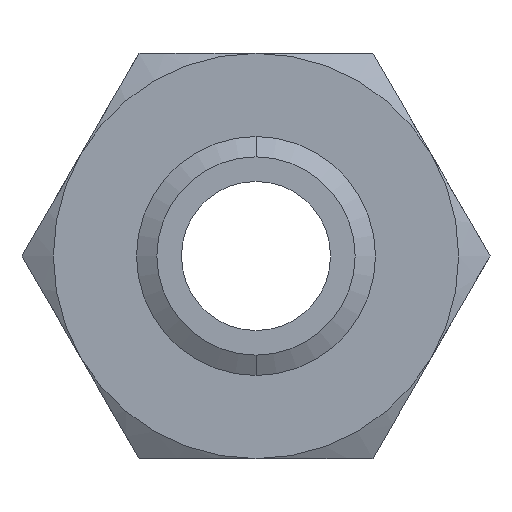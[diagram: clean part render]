
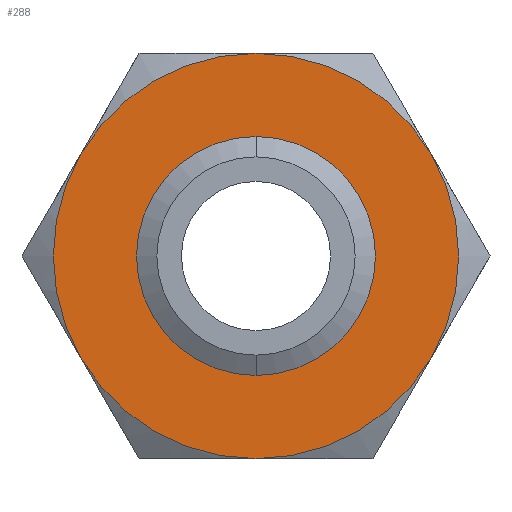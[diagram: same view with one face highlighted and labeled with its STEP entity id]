
A CAD part, front view. The second image highlights one B-rep face of the part: STEP entity #288.
In plain terms, the highlighted planar face has unit normal (0, -1, 0).
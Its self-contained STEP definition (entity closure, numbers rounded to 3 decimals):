
#82 = DIRECTION ( 'NONE',  ( 0., 0., 1. ) ) ;
#83 = DIRECTION ( 'NONE',  ( 0., 1., 0. ) ) ;
#84 = CARTESIAN_POINT ( 'NONE',  ( 0., 0., 0. ) ) ;
#85 = AXIS2_PLACEMENT_3D ( 'NONE', #84, #83, #82 ) ;
#87 = CIRCLE ( 'NONE', #85, 47.5 ) ;
#192 = EDGE_LOOP ( 'NONE', ( #215, #219 ) ) ;
#195 = EDGE_CURVE ( 'NONE', #274, #268, #907, .T. ) ;
#196 = ORIENTED_EDGE ( 'NONE', *, *, #195, .F. ) ;
#214 = VERTEX_POINT ( 'NONE', #945 ) ;
#215 = ORIENTED_EDGE ( 'NONE', *, *, #377, .F. ) ;
#216 = ORIENTED_EDGE ( 'NONE', *, *, #267, .F. ) ;
#217 = EDGE_CURVE ( 'NONE', #426, #425, #943, .T. ) ;
#219 = ORIENTED_EDGE ( 'NONE', *, *, #217, .F. ) ;
#226 = EDGE_CURVE ( 'NONE', #214, #269, #921, .T. ) ;
#227 = ORIENTED_EDGE ( 'NONE', *, *, #226, .F. ) ;
#267 = EDGE_CURVE ( 'NONE', #268, #214, #1079, .T. ) ;
#268 = VERTEX_POINT ( 'NONE', #1074 ) ;
#269 = VERTEX_POINT ( 'NONE', #1073 ) ;
#270 = VERTEX_POINT ( 'NONE', #1072 ) ;
#271 = EDGE_LOOP ( 'NONE', ( #272, #273, #282, #227, #216, #196 ) ) ;
#272 = ORIENTED_EDGE ( 'NONE', *, *, #286, .F. ) ;
#273 = ORIENTED_EDGE ( 'NONE', *, *, #283, .F. ) ;
#274 = VERTEX_POINT ( 'NONE', #1071 ) ;
#280 = VERTEX_POINT ( 'NONE', #1070 ) ;
#281 = EDGE_CURVE ( 'NONE', #269, #280, #87, .T. ) ;
#282 = ORIENTED_EDGE ( 'NONE', *, *, #281, .F. ) ;
#283 = EDGE_CURVE ( 'NONE', #280, #270, #1134, .T. ) ;
#286 = EDGE_CURVE ( 'NONE', #270, #274, #1127, .T. ) ;
#288 = ADVANCED_FACE ( 'NONE', ( #1119, #1118 ), #1117, .F. ) ;
#377 = EDGE_CURVE ( 'NONE', #425, #426, #1283, .T. ) ;
#425 = VERTEX_POINT ( 'NONE', #1383 ) ;
#426 = VERTEX_POINT ( 'NONE', #1382 ) ;
#903 = DIRECTION ( 'NONE',  ( 0., 0., 1. ) ) ;
#904 = DIRECTION ( 'NONE',  ( 0., 1., 0. ) ) ;
#905 = CARTESIAN_POINT ( 'NONE',  ( 0., 0., 0. ) ) ;
#906 = AXIS2_PLACEMENT_3D ( 'NONE', #905, #904, #903 ) ;
#907 = CIRCLE ( 'NONE', #906, 47.5 ) ;
#921 = CIRCLE ( 'NONE', #983, 47.5 ) ;
#939 = DIRECTION ( 'NONE',  ( 0., 0., -1. ) ) ;
#940 = DIRECTION ( 'NONE',  ( 0., -1., 0. ) ) ;
#941 = CARTESIAN_POINT ( 'NONE',  ( 0., 0., 0. ) ) ;
#942 = AXIS2_PLACEMENT_3D ( 'NONE', #941, #940, #939 ) ;
#943 = CIRCLE ( 'NONE', #942, 23.237 ) ;
#945 = CARTESIAN_POINT ( 'NONE',  ( 0., 0., -47.5 ) ) ;
#980 = DIRECTION ( 'NONE',  ( 0., 0., 1. ) ) ;
#981 = DIRECTION ( 'NONE',  ( 0., 1., 0. ) ) ;
#982 = CARTESIAN_POINT ( 'NONE',  ( 0., 0., 0. ) ) ;
#983 = AXIS2_PLACEMENT_3D ( 'NONE', #982, #981, #980 ) ;
#1070 = CARTESIAN_POINT ( 'NONE',  ( -41.136, 0., 23.75 ) ) ;
#1071 = CARTESIAN_POINT ( 'NONE',  ( 41.136, 0., 23.75 ) ) ;
#1072 = CARTESIAN_POINT ( 'NONE',  ( 0., 0., 47.5 ) ) ;
#1073 = CARTESIAN_POINT ( 'NONE',  ( -41.136, 0., -23.75 ) ) ;
#1074 = CARTESIAN_POINT ( 'NONE',  ( 41.136, 0., -23.75 ) ) ;
#1075 = DIRECTION ( 'NONE',  ( 0., 0., 1. ) ) ;
#1076 = DIRECTION ( 'NONE',  ( 0., 1., 0. ) ) ;
#1077 = CARTESIAN_POINT ( 'NONE',  ( 0., 0., 0. ) ) ;
#1078 = AXIS2_PLACEMENT_3D ( 'NONE', #1077, #1076, #1075 ) ;
#1079 = CIRCLE ( 'NONE', #1078, 47.5 ) ;
#1112 = DIRECTION ( 'NONE',  ( 0., 0., 1. ) ) ;
#1113 = DIRECTION ( 'NONE',  ( 0., 1., 0. ) ) ;
#1115 = CARTESIAN_POINT ( 'NONE',  ( 27.424, 0., -47.5 ) ) ;
#1116 = AXIS2_PLACEMENT_3D ( 'NONE', #1115, #1113, #1112 ) ;
#1117 = PLANE ( 'NONE',  #1116 ) ;
#1118 = FACE_BOUND ( 'NONE', #192, .T. ) ;
#1119 = FACE_OUTER_BOUND ( 'NONE', #271, .T. ) ;
#1123 = DIRECTION ( 'NONE',  ( 0., 0., 1. ) ) ;
#1124 = DIRECTION ( 'NONE',  ( 0., 1., 0. ) ) ;
#1125 = CARTESIAN_POINT ( 'NONE',  ( 0., 0., 0. ) ) ;
#1126 = AXIS2_PLACEMENT_3D ( 'NONE', #1125, #1124, #1123 ) ;
#1127 = CIRCLE ( 'NONE', #1126, 47.5 ) ;
#1130 = DIRECTION ( 'NONE',  ( 0., 0., 1. ) ) ;
#1131 = DIRECTION ( 'NONE',  ( 0., 1., 0. ) ) ;
#1132 = CARTESIAN_POINT ( 'NONE',  ( 0., 0., 0. ) ) ;
#1133 = AXIS2_PLACEMENT_3D ( 'NONE', #1132, #1131, #1130 ) ;
#1134 = CIRCLE ( 'NONE', #1133, 47.5 ) ;
#1279 = DIRECTION ( 'NONE',  ( 0., 0., -1. ) ) ;
#1280 = DIRECTION ( 'NONE',  ( 0., -1., 0. ) ) ;
#1281 = CARTESIAN_POINT ( 'NONE',  ( 0., 0., 0. ) ) ;
#1282 = AXIS2_PLACEMENT_3D ( 'NONE', #1281, #1280, #1279 ) ;
#1283 = CIRCLE ( 'NONE', #1282, 23.237 ) ;
#1382 = CARTESIAN_POINT ( 'NONE',  ( 0., 0., 23.237 ) ) ;
#1383 = CARTESIAN_POINT ( 'NONE',  ( 0., 0., -23.237 ) ) ;
